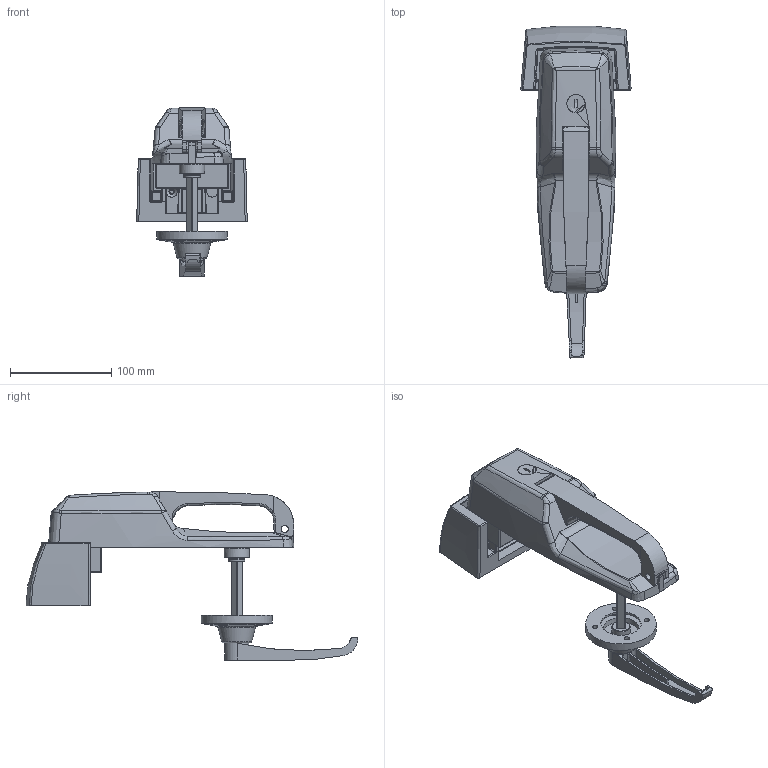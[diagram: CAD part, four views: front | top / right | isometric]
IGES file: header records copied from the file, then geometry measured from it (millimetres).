
Global section: file name: DR_D-702; native system: Autodesk Inventor 2015; preprocessor: unknown; author: user; date: 20180309.181807; units: millimetre
Bounding box: 109.12 x 328.31 x 166.45 mm (x, y, z)
Volume: 502507.5 mm3; surface area: 264004.1 mm2
Topology: 7 solids, 73 shells, 2180 faces, 5703 edges, 3503 vertices
Faces by surface type: bspline 2180
